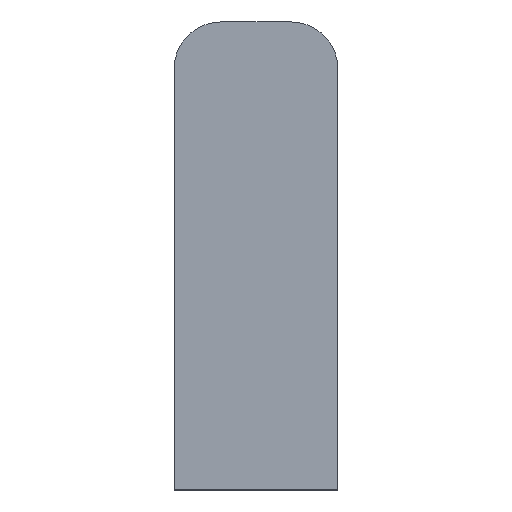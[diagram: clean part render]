
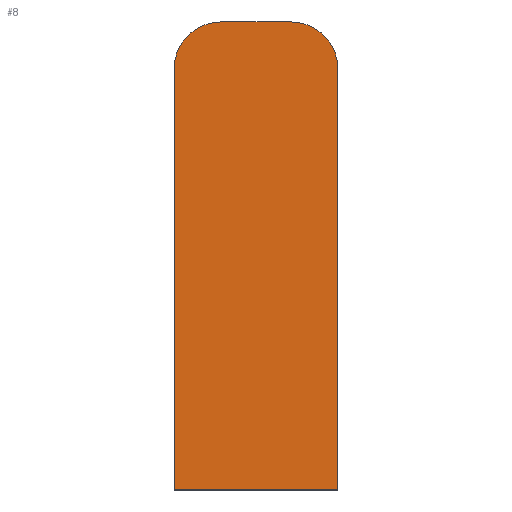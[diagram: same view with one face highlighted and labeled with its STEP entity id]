
A CAD part, front view. The second image highlights one B-rep face of the part: STEP entity #8.
In plain terms, the highlighted planar face has unit normal (0, -1, 0).
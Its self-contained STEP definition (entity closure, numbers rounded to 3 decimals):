
#8 = ADVANCED_FACE ( 'NONE', ( #67 ), #200, .F. ) ;
#41 = ORIENTED_EDGE ( 'NONE', *, *, #120, .T. ) ;
#42 = ORIENTED_EDGE ( 'NONE', *, *, #134, .T. ) ;
#43 = ORIENTED_EDGE ( 'NONE', *, *, #129, .T. ) ;
#44 = ORIENTED_EDGE ( 'NONE', *, *, #137, .T. ) ;
#45 = ORIENTED_EDGE ( 'NONE', *, *, #121, .T. ) ;
#46 = ORIENTED_EDGE ( 'NONE', *, *, #147, .T. ) ;
#53 = EDGE_LOOP ( 'NONE', ( #41, #42, #43, #44, #45, #46 ) ) ;
#67 = FACE_OUTER_BOUND ( 'NONE', #53, .T. ) ;
#77 = LINE ( 'NONE', #210, #82 ) ;
#79 = LINE ( 'NONE', #212, #84 ) ;
#82 = VECTOR ( 'NONE', #213, 1000. ) ;
#84 = VECTOR ( 'NONE', #215, 1000. ) ;
#92 = LINE ( 'NONE', #225, #93 ) ;
#93 = VECTOR ( 'NONE', #226, 1000. ) ;
#98 = CIRCLE ( 'NONE', #141, 3. ) ;
#99 = LINE ( 'NONE', #230, #101 ) ;
#100 = CIRCLE ( 'NONE', #151, 3. ) ;
#101 = VECTOR ( 'NONE', #239, 1000. ) ;
#120 = EDGE_CURVE ( 'NONE', #172, #173, #77, .T. ) ;
#121 = EDGE_CURVE ( 'NONE', #158, #165, #79, .T. ) ;
#129 = EDGE_CURVE ( 'NONE', #160, #168, #92, .T. ) ;
#131 = AXIS2_PLACEMENT_3D ( 'NONE', #203, #197, #199 ) ;
#134 = EDGE_CURVE ( 'NONE', #173, #160, #98, .T. ) ;
#137 = EDGE_CURVE ( 'NONE', #168, #158, #100, .T. ) ;
#141 = AXIS2_PLACEMENT_3D ( 'NONE', #219, #231, #232 ) ;
#147 = EDGE_CURVE ( 'NONE', #165, #172, #99, .T. ) ;
#151 = AXIS2_PLACEMENT_3D ( 'NONE', #227, #233, #234 ) ;
#158 = VERTEX_POINT ( 'NONE', #246 ) ;
#160 = VERTEX_POINT ( 'NONE', #243 ) ;
#165 = VERTEX_POINT ( 'NONE', #247 ) ;
#168 = VERTEX_POINT ( 'NONE', #235 ) ;
#172 = VERTEX_POINT ( 'NONE', #253 ) ;
#173 = VERTEX_POINT ( 'NONE', #254 ) ;
#197 = DIRECTION ( 'NONE',  ( 0., 1., 0. ) ) ;
#199 = DIRECTION ( 'NONE',  ( -1., 0., 0. ) ) ;
#200 = PLANE ( 'NONE',  #131 ) ;
#203 = CARTESIAN_POINT ( 'NONE',  ( 0., 0., -1.5 ) ) ;
#210 = CARTESIAN_POINT ( 'NONE',  ( 5.25, 0., -16.5 ) ) ;
#212 = CARTESIAN_POINT ( 'NONE',  ( -5.25, 0., -16.5 ) ) ;
#213 = DIRECTION ( 'NONE',  ( 0., 0., 1. ) ) ;
#215 = DIRECTION ( 'NONE',  ( 0., 0., -1. ) ) ;
#219 = CARTESIAN_POINT ( 'NONE',  ( 2.25, 0., 10.5 ) ) ;
#225 = CARTESIAN_POINT ( 'NONE',  ( 2.25, 0., 13.5 ) ) ;
#226 = DIRECTION ( 'NONE',  ( -1., 0., 0. ) ) ;
#227 = CARTESIAN_POINT ( 'NONE',  ( -2.25, 0., 10.5 ) ) ;
#230 = CARTESIAN_POINT ( 'NONE',  ( 5.25, 0., -16.5 ) ) ;
#231 = DIRECTION ( 'NONE',  ( 0., -1., 0. ) ) ;
#232 = DIRECTION ( 'NONE',  ( -1., 0., 0. ) ) ;
#233 = DIRECTION ( 'NONE',  ( 0., -1., 0. ) ) ;
#234 = DIRECTION ( 'NONE',  ( -1., 0., 0. ) ) ;
#235 = CARTESIAN_POINT ( 'NONE',  ( -2.25, 0., 13.5 ) ) ;
#239 = DIRECTION ( 'NONE',  ( 1., 0., 0. ) ) ;
#243 = CARTESIAN_POINT ( 'NONE',  ( 2.25, 0., 13.5 ) ) ;
#246 = CARTESIAN_POINT ( 'NONE',  ( -5.25, 0., 10.5 ) ) ;
#247 = CARTESIAN_POINT ( 'NONE',  ( -5.25, 0., -16.5 ) ) ;
#253 = CARTESIAN_POINT ( 'NONE',  ( 5.25, 0., -16.5 ) ) ;
#254 = CARTESIAN_POINT ( 'NONE',  ( 5.25, 0., 10.5 ) ) ;
